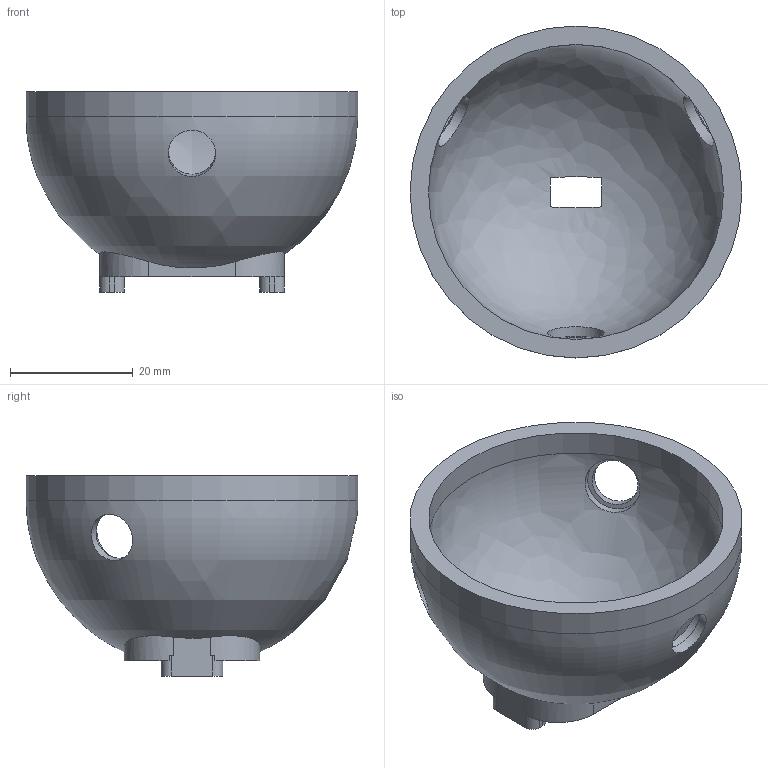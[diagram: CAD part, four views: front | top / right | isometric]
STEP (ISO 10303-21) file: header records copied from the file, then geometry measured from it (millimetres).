
FILE_DESCRIPTION(('Open CASCADE Model'),'2;1');
FILE_NAME('Open CASCADE Shape Model','2026-05-31T19:43:16',('Author'),( 'Open CASCADE'),'Open CASCADE STEP processor 7.6','Open CASCADE 7.6' ,'Unknown');
FILE_SCHEMA(('AP242_MANAGED_MODEL_BASED_3D_ENGINEERING_MIM_LF. {1 0 10303 442 1 1 4 }'));
Length unit declared in the file: millimetre
Products named in the file (1): Open CASCADE STEP translator 7.6 7
Bounding box: 54 x 54 x 32.6 mm (x, y, z)
Volume: 14057.4 mm3; surface area: 10378.5 mm2
Topology: 1 solids, 1 shells, 71 faces, 195 edges, 129 vertices
Faces by surface type: plane 35, cylinder 28, bspline 4, revolution 2, cone 2
Full cylindrical faces by diameter (mm): 2.05 x2, 7.7 x3, 9.2 x3, 48 x1, 54 x1
Entity records: 7982 total; most frequent: CARTESIAN_POINT 4152, DIRECTION 702, ORIENTED_EDGE 386, PCURVE 386, DEFINITIONAL_REPRESENTATION 386, LINE 382, VECTOR 382, EDGE_CURVE 193
